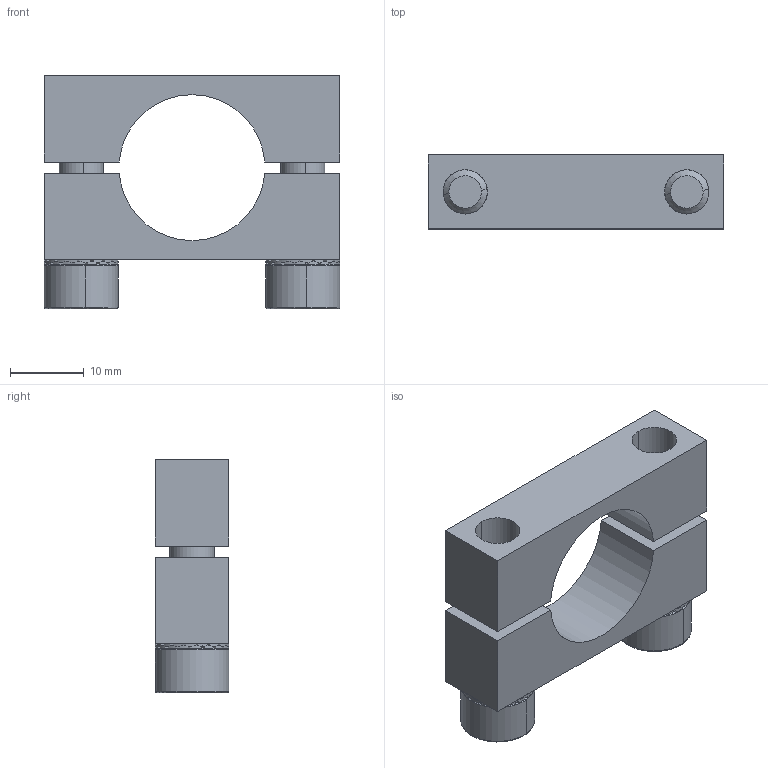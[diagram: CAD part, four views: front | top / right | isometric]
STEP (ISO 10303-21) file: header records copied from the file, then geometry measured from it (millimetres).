
FILE_DESCRIPTION (( 'STEP AP214' ), '1' );
FILE_NAME ('SMBS-20T10.STEP', '2019-11-07T01:35:13', ( '微软用户' ), ( '微软中国' ), 'SwSTEP 2.0', 'SolidWorks 2016', '' );
FILE_SCHEMA (( 'AUTOMOTIVE_DESIGN' ));
Length unit declared in the file: millimetre
Products named in the file (1): SMBS-20T10
Bounding box: 40 x 10 x 31.6 mm (x, y, z)
Volume: 7142.1 mm3; surface area: 6103 mm2
Topology: 6 solids, 6 shells, 360 faces, 1036 edges, 688 vertices
Faces by surface type: plane 322, cylinder 26, cone 8, bspline 4
Entity records: 15995 total; most frequent: CARTESIAN_POINT 2169, DIRECTION 2094, ORIENTED_EDGE 2072, EDGE_CURVE 1036, AXIS2_PLACEMENT_3D 709, VERTEX_POINT 688, LINE 676, VECTOR 676
